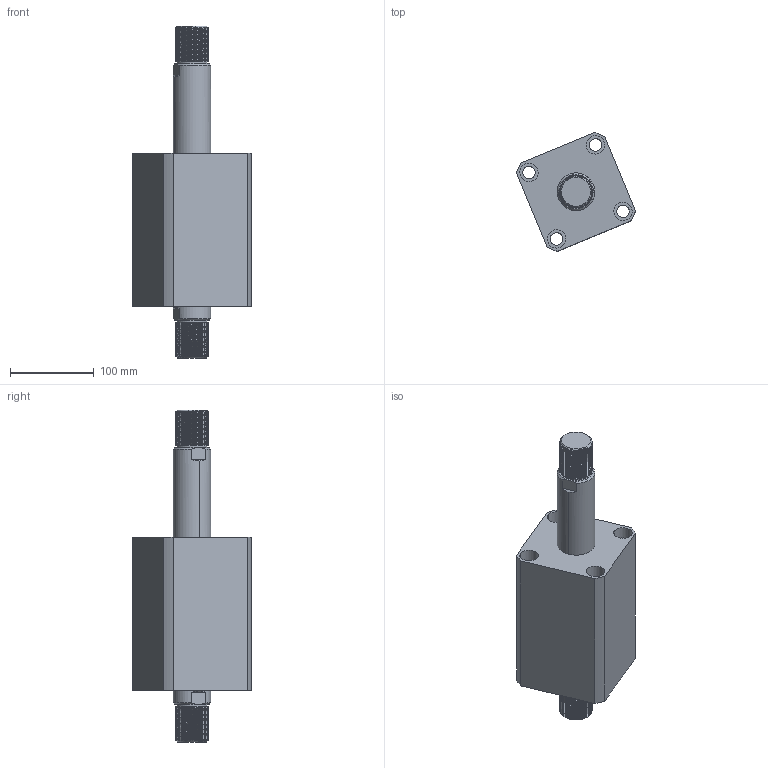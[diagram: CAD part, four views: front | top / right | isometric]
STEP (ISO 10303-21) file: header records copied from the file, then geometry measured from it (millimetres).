
FILE_DESCRIPTION (( 'STEP AP214' ), '1' );
FILE_NAME ('chtb-sw80x90w_asm.STEP', '2018-05-28T02:14:42', ( 'Windows' ), ( 'Microsoft' ), 'SwSTEP 2.0', 'SolidWorks 2015', '' );
FILE_SCHEMA (( 'AUTOMOTIVE_DESIGN' ));
Length unit declared in the file: millimetre
Products named in the file (4): CHTB-SW80X90WHSG; CHTB-SW80X90NBT; CHTB-SD80QG; chtb-sw80x90w_asm
Assembly tree (3 placements, depth 2):
  chtb-sw80x90w_asm
    CHTB-SD80QG
    CHTB-SW80X90NBT
    CHTB-SW80X90WHSG
Bounding box: 142.06 x 142.06 x 397 mm (x, y, z)
Volume: 2163156.7 mm3; surface area: 286202 mm2
Topology: 3 solids, 3 shells, 330 faces, 908 edges, 607 vertices
Faces by surface type: cylinder 221, plane 48, cone 25, bspline 18, torus 18
Entity records: 25864 total; most frequent: CARTESIAN_POINT 18238, ORIENTED_EDGE 1808, DIRECTION 1338, EDGE_CURVE 904, VERTEX_POINT 607, AXIS2_PLACEMENT_3D 532, EDGE_LOOP 373, ADVANCED_FACE 330
